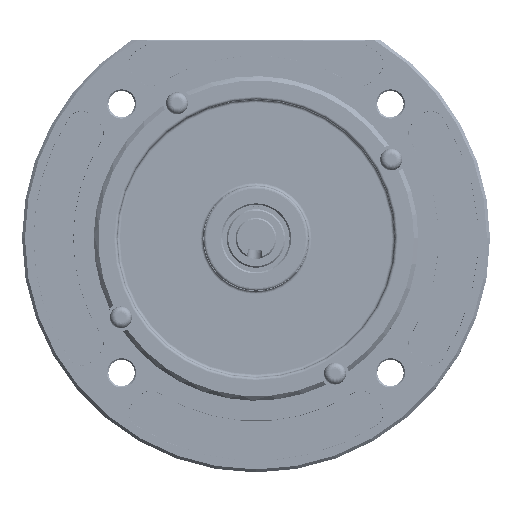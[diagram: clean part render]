
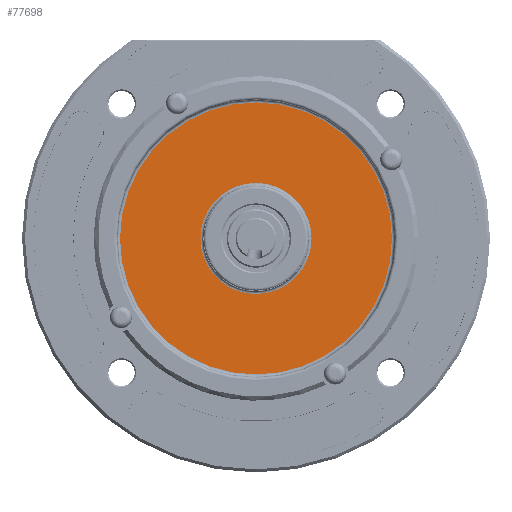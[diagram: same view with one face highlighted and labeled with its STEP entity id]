
A CAD part, top view. The second image highlights one B-rep face of the part: STEP entity #77698.
In plain terms, the highlighted planar face has unit normal (0, 0, 1).
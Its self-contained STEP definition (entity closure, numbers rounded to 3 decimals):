
#297 = DIRECTION ( 'NONE',  ( 1., 0., 0. ) ) ;
#1119 = VERTEX_POINT ( 'NONE', #158209 ) ;
#3587 = DIRECTION ( 'NONE',  ( 1., 0., 0. ) ) ;
#5575 = ORIENTED_EDGE ( 'NONE', *, *, #150638, .T. ) ;
#12928 = ORIENTED_EDGE ( 'NONE', *, *, #113331, .T. ) ;
#30214 = FACE_BOUND ( 'NONE', #150027, .T. ) ;
#30352 = AXIS2_PLACEMENT_3D ( 'NONE', #50134, #84264, #68296 ) ;
#32299 = FACE_OUTER_BOUND ( 'NONE', #117733, .T. ) ;
#33404 = CIRCLE ( 'NONE', #207337, 19. ) ;
#37166 = CARTESIAN_POINT ( 'NONE',  ( 0., 0., 6.5 ) ) ;
#40313 = CARTESIAN_POINT ( 'NONE',  ( 0., 0., 6.5 ) ) ;
#47288 = PLANE ( 'NONE',  #172422 ) ;
#47576 = ORIENTED_EDGE ( 'NONE', *, *, #61331, .T. ) ;
#49542 = DIRECTION ( 'NONE',  ( 0., 0., 1. ) ) ;
#50134 = CARTESIAN_POINT ( 'NONE',  ( 0., 0., 6.5 ) ) ;
#52110 = DIRECTION ( 'NONE',  ( 0., 0., 1. ) ) ;
#60595 = CARTESIAN_POINT ( 'NONE',  ( 0., 0., 6.5 ) ) ;
#61331 = EDGE_CURVE ( 'NONE', #1119, #88749, #75719, .T. ) ;
#64361 = CARTESIAN_POINT ( 'NONE',  ( 0., 0., 6.5 ) ) ;
#68296 = DIRECTION ( 'NONE',  ( 1., 0., 0. ) ) ;
#74604 = ORIENTED_EDGE ( 'NONE', *, *, #123819, .T. ) ;
#75719 = CIRCLE ( 'NONE', #164190, 46.5 ) ;
#77698 = ADVANCED_FACE ( 'NONE', ( #30214, #32299 ), #47288, .T. ) ;
#84264 = DIRECTION ( 'NONE',  ( 0., 0., -1. ) ) ;
#88749 = VERTEX_POINT ( 'NONE', #112382 ) ;
#112382 = CARTESIAN_POINT ( 'NONE',  ( -46.5, 0., 6.5 ) ) ;
#113331 = EDGE_CURVE ( 'NONE', #146768, #170331, #173474, .T. ) ;
#117247 = DIRECTION ( 'NONE',  ( 1., 0., 0. ) ) ;
#117733 = EDGE_LOOP ( 'NONE', ( #47576, #74604 ) ) ;
#123819 = EDGE_CURVE ( 'NONE', #88749, #1119, #167771, .T. ) ;
#124082 = CARTESIAN_POINT ( 'NONE',  ( -19., 0., 6.5 ) ) ;
#137477 = DIRECTION ( 'NONE',  ( 1., 0., 0. ) ) ;
#146768 = VERTEX_POINT ( 'NONE', #165934 ) ;
#147581 = DIRECTION ( 'NONE',  ( 0., 0., 1. ) ) ;
#150027 = EDGE_LOOP ( 'NONE', ( #12928, #5575 ) ) ;
#150638 = EDGE_CURVE ( 'NONE', #170331, #146768, #33404, .T. ) ;
#157590 = AXIS2_PLACEMENT_3D ( 'NONE', #60595, #49542, #3587 ) ;
#158209 = CARTESIAN_POINT ( 'NONE',  ( 46.5, 0., 6.5 ) ) ;
#164190 = AXIS2_PLACEMENT_3D ( 'NONE', #37166, #52110, #117247 ) ;
#165934 = CARTESIAN_POINT ( 'NONE',  ( 19., 0., 6.5 ) ) ;
#167771 = CIRCLE ( 'NONE', #157590, 46.5 ) ;
#170331 = VERTEX_POINT ( 'NONE', #124082 ) ;
#172422 = AXIS2_PLACEMENT_3D ( 'NONE', #64361, #147581, #297 ) ;
#173474 = CIRCLE ( 'NONE', #30352, 19. ) ;
#185522 = DIRECTION ( 'NONE',  ( 0., 0., -1. ) ) ;
#207337 = AXIS2_PLACEMENT_3D ( 'NONE', #40313, #185522, #137477 ) ;
